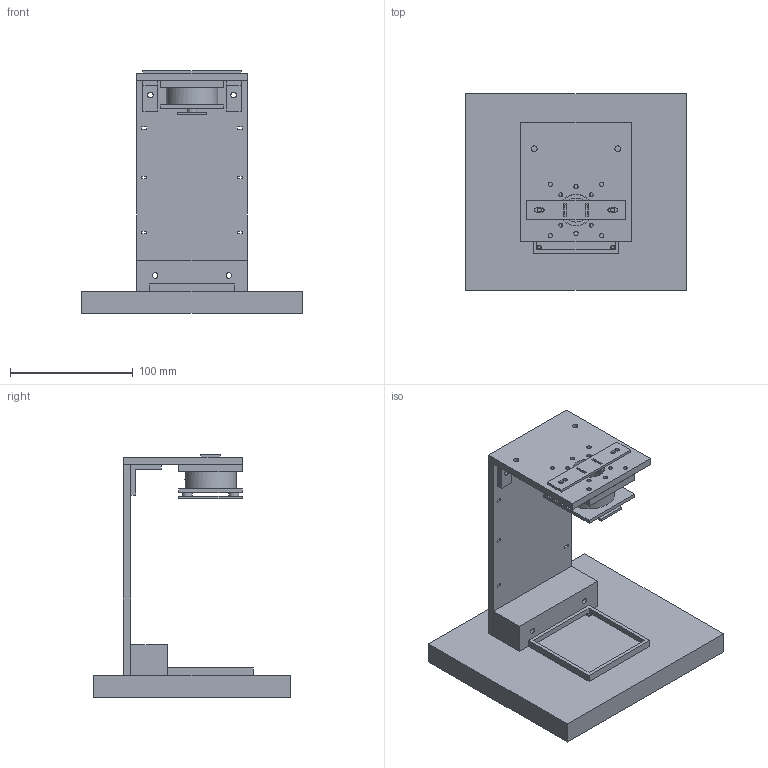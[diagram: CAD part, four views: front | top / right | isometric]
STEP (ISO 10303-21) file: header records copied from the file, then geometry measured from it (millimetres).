
FILE_DESCRIPTION(('Open CASCADE Model'),'2;1');
FILE_NAME('Open CASCADE Shape Model','2026-11-10T18:04:08',('Author'),( 'Open CASCADE'),'Open CASCADE STEP processor 7.9','Open CASCADE 7.9' ,'Unknown');
FILE_SCHEMA(('AUTOMOTIVE_DESIGN { 1 0 10303 214 1 1 1 1 }'));
Length unit declared in the file: millimetre
Products named in the file (12): Open CASCADE STEP translator 7.9 2; Open CASCADE STEP translator 7.9 2.1; Open CASCADE STEP translator 7.9 2.2; Open CASCADE STEP translator 7.9 2.3; Open CASCADE STEP translator 7.9 2.4; Open CASCADE STEP translator 7.9 2.5; Open CASCADE STEP translator 7.9 2.6; Open CASCADE STEP translator 7.9 2.7; Open CASCADE STEP translator 7.9 2.8; Open CASCADE STEP translator 7.9 2.9; Open CASCADE STEP translator 7.9 2.10; Open CASCADE STEP translator 7.9 2.11
Assembly tree (11 placements, depth 2):
  Open CASCADE STEP translator 7.9 2
    Open CASCADE STEP translator 7.9 2.1
    Open CASCADE STEP translator 7.9 2.2
    Open CASCADE STEP translator 7.9 2.3
    Open CASCADE STEP translator 7.9 2.4
    Open CASCADE STEP translator 7.9 2.5
    Open CASCADE STEP translator 7.9 2.6
    Open CASCADE STEP translator 7.9 2.7
    Open CASCADE STEP translator 7.9 2.8
    Open CASCADE STEP translator 7.9 2.9
    Open CASCADE STEP translator 7.9 2.10
    Open CASCADE STEP translator 7.9 2.11
Bounding box: 180 x 160 x 198 mm (x, y, z)
Volume: 775344 mm3; surface area: 176156.9 mm2
Topology: 11 solids, 11 shells, 213 faces, 541 edges, 360 vertices
Faces by surface type: plane 144, cylinder 67, cone 2
Full cylindrical faces by diameter (mm): 2.5 x6, 3.4 x33, 4.5 x14, 8 x2, 19.6 x1, 25.6 x1, 26 x1, 42 x1
Entity records: 13708 total; most frequent: CARTESIAN_POINT 2548, DIRECTION 1953, LINE 1101, VECTOR 1101, ORIENTED_EDGE 1082, PCURVE 1082, DEFINITIONAL_REPRESENTATION 1082, EDGE_CURVE 541
